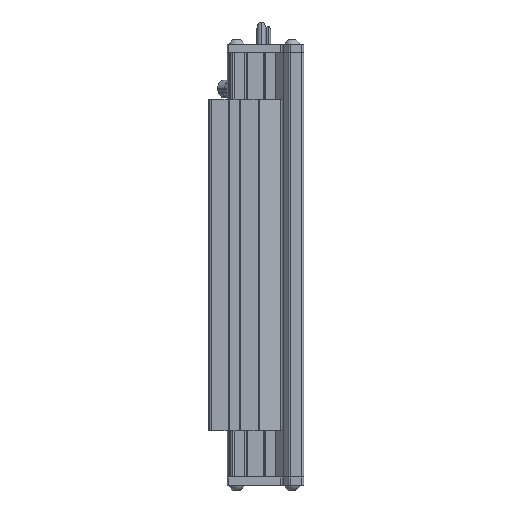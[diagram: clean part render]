
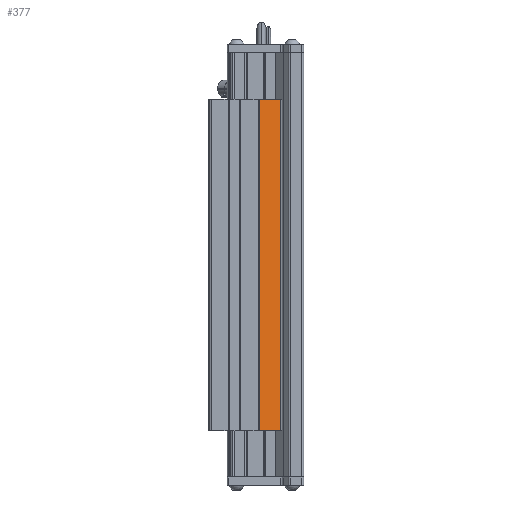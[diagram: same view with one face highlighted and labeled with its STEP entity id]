
A CAD part, left-side view. The second image highlights one B-rep face of the part: STEP entity #377.
In plain terms, the highlighted planar face has unit normal (-0.826, -0.563, 0).
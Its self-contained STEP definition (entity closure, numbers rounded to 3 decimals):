
#377 = ADVANCED_FACE ( 'NONE', ( #36200 ), #31814, .F. ) ;
#3384 = VERTEX_POINT ( 'NONE', #15386 ) ;
#4454 = CARTESIAN_POINT ( 'NONE',  ( -71.167, -6.916, 0. ) ) ;
#4455 = DIRECTION ( 'NONE',  ( 0.563, -0.826, 0. ) ) ;
#4643 = CARTESIAN_POINT ( 'NONE',  ( -70.82, -7.426, 316. ) ) ;
#4644 = DIRECTION ( 'NONE',  ( 0., 0., -1. ) ) ;
#4645 = CARTESIAN_POINT ( 'NONE',  ( -56.826, -27.962, 316. ) ) ;
#4646 = DIRECTION ( 'NONE',  ( 0., 0., 1. ) ) ;
#5860 = ORIENTED_EDGE ( 'NONE', *, *, #7509, .T. ) ;
#5861 = ORIENTED_EDGE ( 'NONE', *, *, #7416, .T. ) ;
#5862 = ORIENTED_EDGE ( 'NONE', *, *, #7508, .T. ) ;
#5863 = ORIENTED_EDGE ( 'NONE', *, *, #15098, .F. ) ;
#6397 = VERTEX_POINT ( 'NONE', #16078 ) ;
#6944 = VERTEX_POINT ( 'NONE', #16622 ) ;
#7416 = EDGE_CURVE ( 'NONE', #3384, #6944, #19837, .T. ) ;
#7508 = EDGE_CURVE ( 'NONE', #19370, #3384, #20163, .T. ) ;
#7509 = EDGE_CURVE ( 'NONE', #6944, #6397, #20167, .T. ) ;
#11757 = CARTESIAN_POINT ( 'NONE',  ( -71.167, -6.916, 316. ) ) ;
#11758 = DIRECTION ( 'NONE',  ( 0.563, -0.826, 0. ) ) ;
#12010 = CARTESIAN_POINT ( 'NONE',  ( -70.82, -7.426, 316. ) ) ;
#13737 = AXIS2_PLACEMENT_3D ( 'NONE', #31815, #31816, #31817 ) ;
#15098 = EDGE_CURVE ( 'NONE', #19370, #6397, #22372, .T. ) ;
#15386 = CARTESIAN_POINT ( 'NONE',  ( -70.82, -7.426, 0. ) ) ;
#16078 = CARTESIAN_POINT ( 'NONE',  ( -56.826, -27.962, 316. ) ) ;
#16622 = CARTESIAN_POINT ( 'NONE',  ( -56.826, -27.962, 0. ) ) ;
#19370 = VERTEX_POINT ( 'NONE', #12010 ) ;
#19837 = LINE ( 'NONE', #4454, #19841 ) ;
#19841 = VECTOR ( 'NONE', #4455, 1000. ) ;
#20163 = LINE ( 'NONE', #4643, #20165 ) ;
#20165 = VECTOR ( 'NONE', #4644, 1000. ) ;
#20167 = LINE ( 'NONE', #4645, #20169 ) ;
#20169 = VECTOR ( 'NONE', #4646, 1000. ) ;
#22372 = LINE ( 'NONE', #11757, #22374 ) ;
#22374 = VECTOR ( 'NONE', #11758, 1000. ) ;
#31814 = PLANE ( 'NONE',  #13737 ) ;
#31815 = CARTESIAN_POINT ( 'NONE',  ( -71.167, -6.916, 316. ) ) ;
#31816 = DIRECTION ( 'NONE',  ( 0.826, 0.563, 0. ) ) ;
#31817 = DIRECTION ( 'NONE',  ( -0.563, 0.826, 0. ) ) ;
#36200 = FACE_OUTER_BOUND ( 'NONE', #41908, .T. ) ;
#41908 = EDGE_LOOP ( 'NONE', ( #5863, #5862, #5861, #5860 ) ) ;
